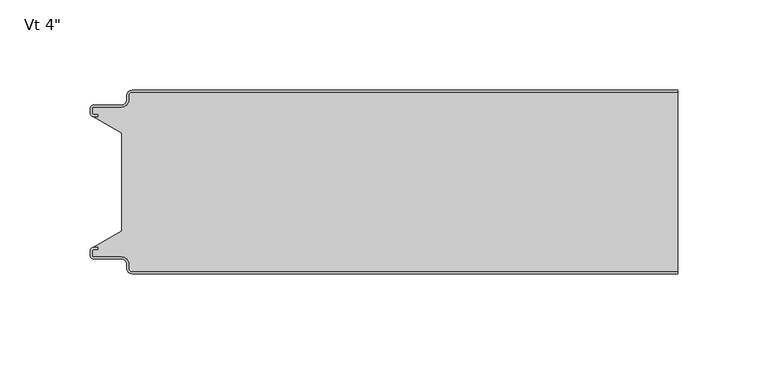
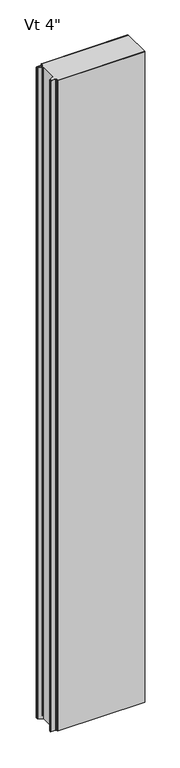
"""IFC4 building model written with IfcOpenShell, lengths in millimetres: plate geometry."""

from ifc_helpers import new_model, si_unit, frame, origin, place, context, project, spatial, polyline, circle_curve, source, transform, mapped, element, save
from ifc_brep_helpers import plane_surface, cylinder_surface, revolved_surface, advanced_brep


def plate_914df59f(model_context):
    return source(origin(), model_context, "Body", "AdvancedBrep", [
        advanced_brep(
        [(-149.8873936, -2.9776189, 2400.0), (-147.9104835, -1.0007088, 2400.0), (153.7374998, -1.0007088, 2400.0), (153.7374998, 0.0, 2400.0), (-147.9102787, 0.0, 2400.0), (-150.8875472, -2.977286, 2400.0), (-150.8875472, -5.2691698, 2400.0), (-153.8648158, -8.2464384, 2400.0), (-169.4612418, -8.2464384, 2400.0), (-171.0491183, -9.8343149, 2400.0), (-171.0491183, -12.9058636, 2400.0), (-169.4612418, -14.4937401, 2400.0), (-167.1062063, -14.4937401, 2400.0), (-167.1062063, -13.4937365, 2400.0), (-169.4612373, -13.4937365, 2400.0), (-170.0491084, -12.9058654, 2400.0), (-170.0491084, -9.834334, 2400.0), (-169.4612512, -9.2464768, 2400.0), (-153.864739, -9.2464768, 2400.0), (-149.8873936, -5.2691315, 2400.0), (-149.8873936, -2.9776189, 0.0), (-149.8873936, -5.2691315, 0.0), (-153.864739, -9.2464768, 0.0), (-169.4612512, -9.2464768, 0.0), (-170.0491084, -9.834334, 0.0), (-170.0491084, -12.9058654, 0.0), (-169.4612373, -13.4937365, 0.0), (-167.1062063, -13.4937365, 0.0), (-167.1062063, -14.4937401, 0.0), (-169.4612418, -14.4937401, 0.0), (-171.0491183, -12.9058636, 0.0), (-171.0491183, -9.8343149, 0.0), (-169.4612418, -8.2464384, 0.0), (-153.8648158, -8.2464384, 0.0), (-150.8875472, -5.2691698, 0.0), (-150.8875472, -2.977286, 0.0), (-147.9102787, -1.75e-05, 0.0), (153.7374998, 0.0, 0.0), (153.7374998, -1.0007088, 0.0), (-147.9104835, -1.0007088, 0.0)],
        [
            (0, 1, circle_curve(frame((-147.9104835, -2.9776189, 2400.0), z_axis=(0.0, 0.0, -1.0), x_axis=(0.0, 1.0, 0.0)), 1.9769101)),
            (1, 2),
            (2, 3),
            (3, 4),
            (4, 5, circle_curve(frame((-147.9102787, -2.977286, 2400.0), z_axis=(0.0, 0.0, 1.0), x_axis=(0.0, 1.0, 0.0)), 2.9772685)),
            (5, 6),
            (6, 7, circle_curve(frame((-153.8648158, -5.2691698, 2400.0), z_axis=(0.0, 0.0, -1.0), x_axis=(0.0, 1.0, 0.0)), 2.9772685)),
            (7, 8),
            (8, 9, circle_curve(frame((-169.4612418, -9.8343149, 2400.0), z_axis=(0.0, 0.0, 1.0), x_axis=(0.0, 1.0, 0.0)), 1.5878765)),
            (9, 10),
            (10, 11, circle_curve(frame((-169.4612418, -12.9058636, 2400.0), z_axis=(0.0, 0.0, 1.0), x_axis=(0.0, 1.0, 0.0)), 1.5878765)),
            (11, 12),
            (12, 13),
            (13, 14),
            (14, 15, circle_curve(frame((-169.4612373, -12.9058654, 2400.0), z_axis=(0.0, 0.0, -1.0), x_axis=(0.0, 1.0, 0.0)), 0.5878711)),
            (15, 16),
            (16, 17, circle_curve(frame((-169.4612512, -9.834334, 2400.0), z_axis=(0.0, 0.0, -1.0), x_axis=(0.0, 1.0, 0.0)), 0.5878572)),
            (17, 18),
            (18, 19, circle_curve(frame((-153.864739, -5.2691315, 2400.0), z_axis=(0.0, 0.0, 1.0), x_axis=(0.0, 1.0, 0.0)), 3.9773454)),
            (19, 0),
            (20, 21),
            (21, 22, circle_curve(frame((-153.864739, -5.2691315, 0.0), z_axis=(0.0, 0.0, -1.0), x_axis=(0.0, 1.0, 0.0)), 3.9773454)),
            (22, 23),
            (23, 24, circle_curve(frame((-169.4612512, -9.834334, 0.0), z_axis=(0.0, 0.0, 1.0), x_axis=(0.0, 1.0, 0.0)), 0.5878572)),
            (24, 25),
            (25, 26, circle_curve(frame((-169.4612373, -12.9058654, 0.0), z_axis=(0.0, 0.0, 1.0), x_axis=(0.0, 1.0, 0.0)), 0.5878711)),
            (26, 27),
            (27, 28),
            (28, 29),
            (29, 30, circle_curve(frame((-169.4612418, -12.9058636, 0.0), z_axis=(0.0, 0.0, -1.0), x_axis=(0.0, 1.0, 0.0)), 1.5878765)),
            (30, 31),
            (31, 32, circle_curve(frame((-169.4612418, -9.8343149, 0.0), z_axis=(0.0, 0.0, -1.0), x_axis=(0.0, 1.0, 0.0)), 1.5878765)),
            (32, 33),
            (33, 34, circle_curve(frame((-153.8648158, -5.2691698, 0.0), z_axis=(0.0, 0.0, 1.0), x_axis=(0.0, 1.0, 0.0)), 2.9772685)),
            (34, 35),
            (35, 36, circle_curve(frame((-147.9102787, -2.977286, 0.0), z_axis=(0.0, 0.0, -1.0), x_axis=(0.0, 1.0, 0.0)), 2.9772685)),
            (36, 37),
            (37, 38),
            (38, 39),
            (39, 20, circle_curve(frame((-147.9104835, -2.9776189, 0.0), z_axis=(0.0, 0.0, 1.0), x_axis=(0.0, 1.0, 0.0)), 1.9769101)),
            (2, 38),
            (37, 3),
            (19, 21),
            (20, 0),
            (18, 22),
            (17, 23),
            (16, 24),
            (15, 25),
            (14, 26),
            (13, 27),
            (12, 28),
            (11, 29),
            (10, 30),
            (9, 31),
            (8, 32),
            (7, 33),
            (6, 34),
            (5, 35),
            (4, 36),
            (1, 39),
        ],
        [
            plane_surface(frame((422.5250002, 0.0, 2400.0), z_axis=(0.0, 0.0, 1.0), x_axis=(0.0, 1.0, 0.0))),
            plane_surface(frame((422.5250002, 0.0, 0.0), z_axis=(0.0, 0.0, -1.0), x_axis=(0.0, 1.0, 0.0))),
            plane_surface(frame((153.7374998, -111.6, 2400.0), z_axis=(1.0, 0.0, 0.0), x_axis=(0.0, 0.0, -1.0))),
            plane_surface(frame((-149.8873936, -2.9776189, 2400.0), z_axis=(1.0, 0.0, 0.0), x_axis=(0.0, 0.0, -1.0))),
            cylinder_surface(frame((-153.864739, -5.2691315, 2400.0), z_axis=(0.0, 0.0, 1.0), x_axis=(0.0, 1.0, 0.0)), 3.9773454),
            plane_surface(frame((-153.864739, -9.2464768, 2400.0), z_axis=(0.0, -1.0, 0.0), x_axis=(0.0, 0.0, -1.0))),
            revolved_surface(polyline([(-169.4612512, -9.2464768, 0.0), (-169.4612512, -9.2464768, 2400.0)]), (-169.4612512, -9.834334, 2400.0), (0.0, 0.0, -1.0)),
            plane_surface(frame((-170.0491084, -9.834334, 2400.0), z_axis=(1.0, 0.0, 0.0), x_axis=(0.0, 0.0, -1.0))),
            revolved_surface(polyline([(-169.4612373, -12.3179943, 0.0), (-169.4612373, -12.3179943, 2400.0)]), (-169.4612373, -12.9058654, 2400.0), (0.0, 0.0, -1.0)),
            plane_surface(frame((-169.4612373, -13.4937365, 2400.0), z_axis=(0.0, 1.0, 0.0), x_axis=(0.0, 0.0, -1.0))),
            plane_surface(frame((-167.1062063, -13.4937365, 2400.0), z_axis=(1.0, 0.0, 0.0), x_axis=(0.0, 0.0, -1.0))),
            plane_surface(frame((-167.1062063, -14.4937401, 2400.0), z_axis=(0.0, -1.0, 0.0), x_axis=(0.0, 0.0, -1.0))),
            cylinder_surface(frame((-169.4612418, -12.9058636, 2400.0), z_axis=(0.0, 0.0, 1.0), x_axis=(0.0, 1.0, 0.0)), 1.5878765),
            plane_surface(frame((-171.0491183, -12.9058636, 2400.0), z_axis=(-1.0, 0.0, 0.0), x_axis=(0.0, 0.0, -1.0))),
            cylinder_surface(frame((-169.4612418, -9.8343149, 2400.0), z_axis=(0.0, 0.0, 1.0), x_axis=(0.0, 1.0, 0.0)), 1.5878765),
            plane_surface(frame((-169.4612418, -8.2464384, 2400.0), z_axis=(0.0, 1.0, 0.0), x_axis=(0.0, 0.0, -1.0))),
            revolved_surface(polyline([(-153.8648158, -2.2919013, 0.0), (-153.8648158, -2.2919013, 2400.0)]), (-153.8648158, -5.2691698, 2400.0), (0.0, 0.0, -1.0)),
            plane_surface(frame((-150.8875472, -5.2691698, 2400.0), z_axis=(-1.0, 0.0, 0.0), x_axis=(0.0, 0.0, -1.0))),
            cylinder_surface(frame((-147.9102787, -2.977286, 2400.0), z_axis=(0.0, 0.0, 1.0), x_axis=(0.0, 1.0, 0.0)), 2.9772685),
            plane_surface(frame((-147.9102787, 0.0, 2400.0), z_axis=(0.0, 1.0, 0.0), x_axis=(0.0, 0.0, -1.0))),
            plane_surface(frame((997.0753372, -1.0007088, 2400.0), z_axis=(0.0, -1.0, 0.0), x_axis=(0.0, 0.0, -1.0))),
            revolved_surface(polyline([(-147.9104835, -1.0007088, 0.0), (-147.9104835, -1.0007088, 2400.0)]), (-147.9104835, -2.9776189, 2400.0), (0.0, 0.0, -1.0)),
        ],
        [
            (0, [[1, 2, 3, 4, 5, 6, 7, 8, 9, 10, 11, 12, 13, 14, 15, 16, 17, 18, 19, 20]]),
            (1, [[21, 22, 23, 24, 25, 26, 27, 28, 29, 30, 31, 32, 33, 34, 35, 36, 37, 38, 39, 40]]),
            (2, [[41, -38, 42, -3]]),
            (3, [[43, -21, 44, -20]]),
            (4, [[45, -22, -43, -19]]),
            (5, [[46, -23, -45, -18]]),
            (6, [[47, -24, -46, -17]]),
            (7, [[48, -25, -47, -16]]),
            (8, [[49, -26, -48, -15]]),
            (9, [[50, -27, -49, -14]]),
            (10, [[51, -28, -50, -13]]),
            (11, [[52, -29, -51, -12]]),
            (12, [[53, -30, -52, -11]]),
            (13, [[54, -31, -53, -10]]),
            (14, [[55, -32, -54, -9]]),
            (15, [[56, -33, -55, -8]]),
            (16, [[57, -34, -56, -7]]),
            (17, [[58, -35, -57, -6]]),
            (18, [[59, -36, -58, -5]]),
            (19, [[-4, -42, -37, -59]]),
            (20, [[-39, -41, -2, 60]]),
            (21, [[-44, -40, -60, -1]]),
        ],
    ),
        advanced_brep(
        [(-149.8873936, -98.6223811, 2400.0), (-149.8873936, -96.3308685, 2400.0), (-153.864739, -92.3535232, 2400.0), (-169.4612512, -92.3535232, 2400.0), (-170.0491084, -91.765666, 2400.0), (-170.0491084, -88.6941346, 2400.0), (-169.4612373, -88.1062635, 2400.0), (-167.1062063, -88.1062635, 2400.0), (-167.1062063, -87.1062599, 2400.0), (-169.4612418, -87.1062599, 2400.0), (-171.0491183, -88.6941364, 2400.0), (-171.0491183, -91.7656851, 2400.0), (-169.4612418, -93.3535616, 2400.0), (-153.8648158, -93.3535616, 2400.0), (-150.8875472, -96.3308302, 2400.0), (-150.8875472, -98.622714, 2400.0), (-147.9102787, -101.5999825, 2400.0), (153.7374998, -101.6, 2400.0), (153.7374998, -100.5992912, 2400.0), (-147.9104835, -100.5992912, 2400.0), (-149.8873936, -98.6223811, 0.0), (-147.9104835, -100.5992912, 0.0), (153.7374998, -100.5992912, 0.0), (153.7374998, -101.6, 0.0), (-147.9102787, -101.6, 0.0), (-150.8875472, -98.622714, 0.0), (-150.8875472, -96.3308302, 0.0), (-153.8648158, -93.3535616, 0.0), (-169.4612418, -93.3535616, 0.0), (-171.0491183, -91.7656851, 0.0), (-171.0491183, -88.6941364, 0.0), (-169.4612418, -87.1062599, 0.0), (-167.1062063, -87.1062599, 0.0), (-167.1062063, -88.1062635, 0.0), (-169.4612373, -88.1062635, 0.0), (-170.0491084, -88.6941346, 0.0), (-170.0491084, -91.765666, 0.0), (-169.4612512, -92.3535232, 0.0), (-153.864739, -92.3535232, 0.0), (-149.8873936, -96.3308685, 0.0)],
        [
            (0, 1),
            (1, 2, circle_curve(frame((-153.864739, -96.3308685, 2400.0), z_axis=(0.0, 0.0, 1.0), x_axis=(-1.0, 0.0, 0.0)), 3.9773454)),
            (2, 3),
            (3, 4, circle_curve(frame((-169.4612512, -91.765666, 2400.0), z_axis=(0.0, 0.0, -1.0), x_axis=(-1.0, 0.0, 0.0)), 0.5878572)),
            (4, 5),
            (5, 6, circle_curve(frame((-169.4612373, -88.6941346, 2400.0), z_axis=(0.0, 0.0, -1.0), x_axis=(-1.0, 0.0, 0.0)), 0.5878711)),
            (6, 7),
            (7, 8),
            (8, 9),
            (9, 10, circle_curve(frame((-169.4612418, -88.6941364, 2400.0), z_axis=(0.0, 0.0, 1.0), x_axis=(-1.0, 0.0, 0.0)), 1.5878765)),
            (10, 11),
            (11, 12, circle_curve(frame((-169.4612418, -91.7656851, 2400.0), z_axis=(0.0, 0.0, 1.0), x_axis=(-1.0, 0.0, 0.0)), 1.5878765)),
            (12, 13),
            (13, 14, circle_curve(frame((-153.8648158, -96.3308302, 2400.0), z_axis=(0.0, 0.0, -1.0), x_axis=(-1.0, 0.0, 0.0)), 2.9772685)),
            (14, 15),
            (15, 16, circle_curve(frame((-147.9102787, -98.622714, 2400.0), z_axis=(0.0, 0.0, 1.0), x_axis=(-1.0, 0.0, 0.0)), 2.9772685)),
            (16, 17),
            (17, 18),
            (18, 19),
            (19, 0, circle_curve(frame((-147.9104835, -98.6223811, 2400.0), z_axis=(0.0, 0.0, -1.0), x_axis=(-1.0, 0.0, 0.0)), 1.9769101)),
            (20, 21, circle_curve(frame((-147.9104835, -98.6223811, 0.0), z_axis=(0.0, 0.0, 1.0), x_axis=(-1.0, 0.0, 0.0)), 1.9769101)),
            (21, 22),
            (22, 23),
            (23, 24),
            (24, 25, circle_curve(frame((-147.9102787, -98.622714, 0.0), z_axis=(0.0, 0.0, -1.0), x_axis=(-1.0, 0.0, 0.0)), 2.9772685)),
            (25, 26),
            (26, 27, circle_curve(frame((-153.8648158, -96.3308302, 0.0), z_axis=(0.0, 0.0, 1.0), x_axis=(-1.0, 0.0, 0.0)), 2.9772685)),
            (27, 28),
            (28, 29, circle_curve(frame((-169.4612418, -91.7656851, 0.0), z_axis=(0.0, 0.0, -1.0), x_axis=(-1.0, 0.0, 0.0)), 1.5878765)),
            (29, 30),
            (30, 31, circle_curve(frame((-169.4612418, -88.6941364, 0.0), z_axis=(0.0, 0.0, -1.0), x_axis=(-1.0, 0.0, 0.0)), 1.5878765)),
            (31, 32),
            (32, 33),
            (33, 34),
            (34, 35, circle_curve(frame((-169.4612373, -88.6941346, 0.0), z_axis=(0.0, 0.0, 1.0), x_axis=(-1.0, 0.0, 0.0)), 0.5878711)),
            (35, 36),
            (36, 37, circle_curve(frame((-169.4612512, -91.765666, 0.0), z_axis=(0.0, 0.0, 1.0), x_axis=(-1.0, 0.0, 0.0)), 0.5878572)),
            (37, 38),
            (38, 39, circle_curve(frame((-153.864739, -96.3308685, 0.0), z_axis=(0.0, 0.0, -1.0), x_axis=(-1.0, 0.0, 0.0)), 3.9773454)),
            (39, 20),
            (17, 23),
            (22, 18),
            (16, 24),
            (21, 19),
            (20, 0),
            (39, 1),
            (38, 2),
            (37, 3),
            (4, 36),
            (35, 5),
            (34, 6),
            (33, 7),
            (32, 8),
            (31, 9),
            (30, 10),
            (29, 11),
            (28, 12),
            (27, 13),
            (26, 14),
            (25, 15),
        ],
        [
            plane_surface(frame((422.5250002, -101.6, 2400.0), z_axis=(0.0, 0.0, 1.0), x_axis=(0.0, -1.0, 0.0))),
            plane_surface(frame((422.5250002, -101.6, 0.0), z_axis=(0.0, 0.0, -1.0), x_axis=(0.0, -1.0, 0.0))),
            plane_surface(frame((153.7374998, -111.6, 2400.0), z_axis=(1.0, 0.0, 0.0), x_axis=(0.0, 0.0, -1.0))),
            plane_surface(frame((997.0725653, -101.6, 2400.0), z_axis=(0.0, -1.0, 0.0), x_axis=(0.0, 0.0, -1.0))),
            plane_surface(frame((-147.9104835, -100.5992912, 2400.0), z_axis=(0.0, 1.0, 0.0), x_axis=(0.0, 0.0, -1.0))),
            revolved_surface(polyline([(-149.8873936, -98.6223811, 0.0), (-149.8873936, -98.6223811, 2400.0)]), (-147.9104835, -98.6223811, 2400.0), (0.0, 0.0, -1.0)),
            plane_surface(frame((-149.8873936, -96.3308685, 2400.0), z_axis=(1.0, 0.0, 0.0), x_axis=(0.0, 0.0, -1.0))),
            cylinder_surface(frame((-153.864739, -96.3308685, 2400.0), z_axis=(0.0, 0.0, 1.0), x_axis=(-1.0, 0.0, 0.0)), 3.9773454),
            plane_surface(frame((-169.4612512, -92.3535232, 2400.0), z_axis=(0.0, 1.0, 0.0), x_axis=(0.0, 0.0, -1.0))),
            plane_surface(frame((-170.0491084, -88.6941346, 2400.0), z_axis=(1.0, 0.0, 0.0), x_axis=(0.0, 0.0, -1.0))),
            revolved_surface(polyline([(-170.0491084, -88.6941346, 0.0), (-170.0491084, -88.6941346, 2400.0)]), (-169.4612373, -88.6941346, 2400.0), (0.0, 0.0, -1.0)),
            plane_surface(frame((-167.1062063, -88.1062635, 2400.0), z_axis=(0.0, -1.0, 0.0), x_axis=(0.0, 0.0, -1.0))),
            plane_surface(frame((-167.1062063, -87.1062599, 2400.0), z_axis=(1.0, 0.0, 0.0), x_axis=(0.0, 0.0, -1.0))),
            plane_surface(frame((-169.4612418, -87.1062599, 2400.0), z_axis=(0.0, 1.0, 0.0), x_axis=(0.0, 0.0, -1.0))),
            cylinder_surface(frame((-169.4612418, -88.6941364, 2400.0), z_axis=(0.0, 0.0, 1.0), x_axis=(-1.0, 0.0, 0.0)), 1.5878765),
            plane_surface(frame((-171.0491183, -91.7656851, 2400.0), z_axis=(-1.0, 0.0, 0.0), x_axis=(0.0, 0.0, -1.0))),
            cylinder_surface(frame((-169.4612418, -91.7656851, 2400.0), z_axis=(0.0, 0.0, 1.0), x_axis=(-1.0, 0.0, 0.0)), 1.5878765),
            plane_surface(frame((-153.8648158, -93.3535616, 2400.0), z_axis=(0.0, -1.0, 0.0), x_axis=(0.0, 0.0, -1.0))),
            revolved_surface(polyline([(-156.8420843, -96.3308302, 0.0), (-156.8420843, -96.3308302, 2400.0)]), (-153.8648158, -96.3308302, 2400.0), (0.0, 0.0, -1.0)),
            plane_surface(frame((-150.8875472, -98.622714, 2400.0), z_axis=(-1.0, 0.0, 0.0), x_axis=(0.0, 0.0, -1.0))),
            cylinder_surface(frame((-147.9102787, -98.622714, 2400.0), z_axis=(0.0, 0.0, 1.0), x_axis=(-1.0, 0.0, 0.0)), 2.9772685),
            revolved_surface(polyline([(-170.0491084, -91.765666, 0.0), (-170.0491084, -91.765666, 2400.0)]), (-169.4612512, -91.765666, 2400.0), (0.0, 0.0, -1.0)),
        ],
        [
            (0, [[1, 2, 3, 4, 5, 6, 7, 8, 9, 10, 11, 12, 13, 14, 15, 16, 17, 18, 19, 20]]),
            (1, [[21, 22, 23, 24, 25, 26, 27, 28, 29, 30, 31, 32, 33, 34, 35, 36, 37, 38, 39, 40]]),
            (2, [[41, -23, 42, -18]]),
            (3, [[-24, -41, -17, 43]]),
            (4, [[-19, -42, -22, 44]]),
            (5, [[-44, -21, 45, -20]]),
            (6, [[-45, -40, 46, -1]]),
            (7, [[-46, -39, 47, -2]]),
            (8, [[-47, -38, 48, -3]]),
            (9, [[49, -36, 50, -5]]),
            (10, [[-50, -35, 51, -6]]),
            (11, [[-51, -34, 52, -7]]),
            (12, [[-52, -33, 53, -8]]),
            (13, [[-53, -32, 54, -9]]),
            (14, [[-54, -31, 55, -10]]),
            (15, [[-55, -30, 56, -11]]),
            (16, [[-56, -29, 57, -12]]),
            (17, [[-57, -28, 58, -13]]),
            (18, [[-58, -27, 59, -14]]),
            (19, [[-59, -26, 60, -15]]),
            (20, [[-60, -25, -43, -16]]),
            (21, [[-48, -37, -49, -4]]),
        ],
    ),
        advanced_brep(
        [(-149.88755, -98.6227194, 2400.0), (-147.910276, -100.5999935, 2400.0), (153.7374998, -100.6, 2400.0), (153.7374998, -1.0, 2400.0), (-147.910276, -1.0, 2400.0), (-149.88755, -2.9772806, 2400.0), (-149.88755, -5.2691705, 2400.0), (-153.8648171, -9.2464377, 2400.0), (-169.4612416, -9.2464377, 2400.0), (-170.0491185, -9.8343146, 2400.0), (-170.0491185, -12.9058635, 2400.0), (-169.4612418, -13.4937402, 2400.0), (-167.1062063, -13.4937402, 2400.0), (-167.1062063, -14.4937402, 2400.0), (-169.395785, -14.4937402, 2400.0), (-153.7374998, -23.7509135, 2400.0), (-153.7374998, -77.8490865, 2400.0), (-169.395785, -87.1062598, 2400.0), (-167.1062063, -87.1062598, 2400.0), (-167.1062063, -88.1062598, 2400.0), (-169.4612418, -88.1062598, 2400.0), (-170.0491185, -88.6941365, 2400.0), (-170.0491185, -91.7656854, 2400.0), (-169.4612416, -92.3535623, 2400.0), (-153.8648171, -92.3535623, 2400.0), (-149.88755, -96.3308295, 2400.0), (-149.88755, -98.6227194, 0.0), (-149.88755, -96.3308295, 0.0), (-153.8648171, -92.3535623, 0.0), (-169.4612416, -92.3535623, 0.0), (-170.0491185, -91.7656854, 0.0), (-170.0491185, -88.6941365, 0.0), (-169.4612418, -88.1062598, 0.0), (-167.1062063, -88.1062598, 0.0), (-167.1062063, -87.1062598, 0.0), (-169.395785, -87.1062598, 0.0), (-153.7374998, -77.8490865, 0.0), (-153.7374998, -23.7509179, 0.0), (-169.395785, -14.4937402, 0.0), (-167.1062063, -14.4937402, 0.0), (-167.1062063, -13.4937402, 0.0), (-169.4612418, -13.4937402, 0.0), (-170.0491185, -12.9058635, 0.0), (-170.0491185, -9.8343146, 0.0), (-169.4612416, -9.2464377, 0.0), (-153.8648171, -9.2464377, 0.0), (-149.88755, -5.2691705, 0.0), (-149.88755, -2.9772806, 0.0), (-147.910276, -1.0000065, 0.0), (153.7374998, -1.0, 0.0), (153.7374998, -100.6, 0.0), (-147.910276, -100.6, 0.0)],
        [
            (0, 1, circle_curve(frame((-147.910276, -98.6227194, 2400.0), z_axis=(0.0, 0.0, 1.0), x_axis=(-1.0, 0.0, 0.0)), 1.977274)),
            (1, 2),
            (2, 3),
            (3, 4),
            (4, 5, circle_curve(frame((-147.910276, -2.9772806, 2400.0), z_axis=(0.0, 0.0, 1.0), x_axis=(0.0, 1.0, 0.0)), 1.977274)),
            (5, 6),
            (6, 7, circle_curve(frame((-153.8648171, -5.2691705, 2400.0), z_axis=(0.0, 0.0, -1.0), x_axis=(0.0, 1.0, 0.0)), 3.9772671)),
            (7, 8),
            (8, 9, circle_curve(frame((-169.4612416, -9.8343146, 2400.0), z_axis=(0.0, 0.0, 1.0), x_axis=(0.0, 1.0, 0.0)), 0.5878769)),
            (9, 10),
            (10, 11, circle_curve(frame((-169.4612418, -12.9058635, 2400.0), z_axis=(0.0, 0.0, 1.0), x_axis=(0.0, 1.0, 0.0)), 0.5878766)),
            (11, 12),
            (12, 13),
            (13, 14),
            (14, 15),
            (15, 16),
            (16, 17),
            (17, 18),
            (18, 19),
            (19, 20),
            (20, 21, circle_curve(frame((-169.4612418, -88.6941365, 2400.0), z_axis=(0.0, 0.0, 1.0), x_axis=(-1.0, 0.0, 0.0)), 0.5878766)),
            (21, 22),
            (22, 23, circle_curve(frame((-169.4612416, -91.7656854, 2400.0), z_axis=(0.0, 0.0, 1.0), x_axis=(-1.0, 0.0, 0.0)), 0.5878769)),
            (23, 24),
            (24, 25, circle_curve(frame((-153.8648171, -96.3308295, 2400.0), z_axis=(0.0, 0.0, -1.0), x_axis=(-1.0, 0.0, 0.0)), 3.9772671)),
            (25, 0),
            (26, 27),
            (27, 28, circle_curve(frame((-153.8648171, -96.3308295, 0.0), z_axis=(0.0, 0.0, 1.0), x_axis=(-1.0, 0.0, 0.0)), 3.9772671)),
            (28, 29),
            (29, 30, circle_curve(frame((-169.4612416, -91.7656854, 0.0), z_axis=(0.0, 0.0, -1.0), x_axis=(-1.0, 0.0, 0.0)), 0.5878769)),
            (30, 31),
            (31, 32, circle_curve(frame((-169.4612418, -88.6941365, 0.0), z_axis=(0.0, 0.0, -1.0), x_axis=(-1.0, 0.0, 0.0)), 0.5878766)),
            (32, 33),
            (33, 34),
            (34, 35),
            (35, 36),
            (36, 37),
            (37, 38),
            (38, 39),
            (39, 40),
            (40, 41),
            (41, 42, circle_curve(frame((-169.4612418, -12.9058635, 0.0), z_axis=(0.0, 0.0, -1.0), x_axis=(0.0, 1.0, 0.0)), 0.5878766)),
            (42, 43),
            (43, 44, circle_curve(frame((-169.4612416, -9.8343146, 0.0), z_axis=(0.0, 0.0, -1.0), x_axis=(0.0, 1.0, 0.0)), 0.5878769)),
            (44, 45),
            (45, 46, circle_curve(frame((-153.8648171, -5.2691705, 0.0), z_axis=(0.0, 0.0, 1.0), x_axis=(0.0, 1.0, 0.0)), 3.9772671)),
            (46, 47),
            (47, 48, circle_curve(frame((-147.910276, -2.9772806, 0.0), z_axis=(0.0, 0.0, -1.0), x_axis=(0.0, 1.0, 0.0)), 1.977274)),
            (48, 49),
            (49, 50),
            (50, 51),
            (51, 26, circle_curve(frame((-147.910276, -98.6227194, 0.0), z_axis=(0.0, 0.0, -1.0), x_axis=(-1.0, 0.0, 0.0)), 1.977274)),
            (15, 37),
            (36, 16),
            (2, 50),
            (49, 3),
            (25, 27),
            (26, 0),
            (24, 28),
            (23, 29),
            (22, 30),
            (21, 31),
            (20, 32),
            (19, 33),
            (18, 34),
            (17, 35),
            (1, 51),
            (4, 48),
            (47, 5),
            (14, 38),
            (13, 39),
            (12, 40),
            (11, 41),
            (10, 42),
            (9, 43),
            (8, 44),
            (7, 45),
            (6, 46),
        ],
        [
            plane_surface(frame((422.5250002, -100.6, 2400.0), z_axis=(0.0, 0.0, 1.0), x_axis=(0.0, -1.0, 0.0))),
            plane_surface(frame((422.5250002, -100.6, 0.0), z_axis=(0.0, 0.0, -1.0), x_axis=(0.0, -1.0, 0.0))),
            plane_surface(frame((-153.7374998, -77.8490865, 2400.0), z_axis=(-1.0, 0.0, 0.0), x_axis=(0.0, 0.0, -1.0))),
            plane_surface(frame((153.7374998, -111.6, 2400.0), z_axis=(1.0, 0.0, 0.0), x_axis=(0.0, 0.0, -1.0))),
            plane_surface(frame((-149.88755, -98.6227194, 2400.0), z_axis=(-1.0, 0.0, 0.0), x_axis=(0.0, 0.0, -1.0))),
            revolved_surface(polyline([(-157.84208420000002, -96.3308295, 0.0), (-157.84208420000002, -96.3308295, 2400.0)]), (-153.8648171, -96.3308295, 2400.0), (0.0, 0.0, -1.0)),
            plane_surface(frame((-153.8648171, -92.3535623, 2400.0), z_axis=(0.0, -1.0, 0.0), x_axis=(0.0, 0.0, -1.0))),
            cylinder_surface(frame((-169.4612416, -91.7656854, 2400.0), z_axis=(0.0, 0.0, 1.0), x_axis=(-1.0, 0.0, 0.0)), 0.5878769),
            plane_surface(frame((-170.0491185, -91.7656854, 2400.0), z_axis=(-1.0, 0.0, 0.0), x_axis=(0.0, 0.0, -1.0))),
            cylinder_surface(frame((-169.4612418, -88.6941365, 2400.0), z_axis=(0.0, 0.0, 1.0), x_axis=(-1.0, 0.0, 0.0)), 0.5878766),
            plane_surface(frame((-169.4612418, -88.1062598, 2400.0), z_axis=(0.0, 1.0, 0.0), x_axis=(0.0, 0.0, -1.0))),
            plane_surface(frame((-167.1062063, -88.1062598, 2400.0), z_axis=(-1.0, 0.0, 0.0), x_axis=(0.0, 0.0, -1.0))),
            plane_surface(frame((-167.1062063, -87.1062598, 2400.0), z_axis=(0.0, -1.0, 0.0), x_axis=(0.0, 0.0, -1.0))),
            plane_surface(frame((-169.395785, -87.1062598, 2400.0), z_axis=(-0.5089147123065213, 0.860816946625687, 0.0), x_axis=(0.0, 0.0, -1.0))),
            plane_surface(frame((997.0725653, -100.6, 2400.0), z_axis=(0.0, -1.0, 0.0), x_axis=(0.0, 0.0, -1.0))),
            cylinder_surface(frame((-147.910276, -98.6227194, 2400.0), z_axis=(0.0, 0.0, 1.0), x_axis=(-1.0, 0.0, 0.0)), 1.977274),
            cylinder_surface(frame((-147.910276, -2.9772806, 2400.0), z_axis=(0.0, 0.0, 1.0), x_axis=(0.0, 1.0, 0.0)), 1.977274),
            plane_surface(frame((-147.910276, -1.0, 2400.0), z_axis=(0.0, 1.0, 0.0), x_axis=(0.0, 0.0, -1.0))),
            plane_surface(frame((-153.7374998, -23.7509135, 2400.0), z_axis=(-0.5089147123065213, -0.860816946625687, 0.0), x_axis=(0.0, 0.0, -1.0))),
            plane_surface(frame((-169.395785, -14.4937402, 2400.0), z_axis=(0.0, 1.0, 0.0), x_axis=(0.0, 0.0, -1.0))),
            plane_surface(frame((-167.1062063, -14.4937402, 2400.0), z_axis=(-1.0, 0.0, 0.0), x_axis=(0.0, 0.0, -1.0))),
            plane_surface(frame((-167.1062063, -13.4937402, 2400.0), z_axis=(0.0, -1.0, 0.0), x_axis=(0.0, 0.0, -1.0))),
            cylinder_surface(frame((-169.4612418, -12.9058635, 2400.0), z_axis=(0.0, 0.0, 1.0), x_axis=(0.0, 1.0, 0.0)), 0.5878766),
            plane_surface(frame((-170.0491185, -12.9058635, 2400.0), z_axis=(-1.0, 0.0, 0.0), x_axis=(0.0, 0.0, -1.0))),
            cylinder_surface(frame((-169.4612416, -9.8343146, 2400.0), z_axis=(0.0, 0.0, 1.0), x_axis=(0.0, 1.0, 0.0)), 0.5878769),
            plane_surface(frame((-169.4612416, -9.2464377, 2400.0), z_axis=(0.0, 1.0, 0.0), x_axis=(0.0, 0.0, -1.0))),
            revolved_surface(polyline([(-153.8648171, -1.2919034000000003, 0.0), (-153.8648171, -1.2919034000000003, 2400.0)]), (-153.8648171, -5.2691705, 2400.0), (0.0, 0.0, -1.0)),
            plane_surface(frame((-149.88755, -5.2691705, 2400.0), z_axis=(-1.0, 0.0, 0.0), x_axis=(0.0, 0.0, -1.0))),
        ],
        [
            (0, [[1, 2, 3, 4, 5, 6, 7, 8, 9, 10, 11, 12, 13, 14, 15, 16, 17, 18, 19, 20, 21, 22, 23, 24, 25, 26]]),
            (1, [[27, 28, 29, 30, 31, 32, 33, 34, 35, 36, 37, 38, 39, 40, 41, 42, 43, 44, 45, 46, 47, 48, 49, 50, 51, 52]]),
            (2, [[53, -37, 54, -16]]),
            (3, [[55, -50, 56, -3]]),
            (4, [[57, -27, 58, -26]]),
            (5, [[59, -28, -57, -25]]),
            (6, [[60, -29, -59, -24]]),
            (7, [[61, -30, -60, -23]]),
            (8, [[62, -31, -61, -22]]),
            (9, [[63, -32, -62, -21]]),
            (10, [[64, -33, -63, -20]]),
            (11, [[65, -34, -64, -19]]),
            (12, [[66, -35, -65, -18]]),
            (13, [[-54, -36, -66, -17]]),
            (14, [[-51, -55, -2, 67]]),
            (15, [[-58, -52, -67, -1]]),
            (16, [[68, -48, 69, -5]]),
            (17, [[-4, -56, -49, -68]]),
            (18, [[70, -38, -53, -15]]),
            (19, [[71, -39, -70, -14]]),
            (20, [[72, -40, -71, -13]]),
            (21, [[73, -41, -72, -12]]),
            (22, [[74, -42, -73, -11]]),
            (23, [[75, -43, -74, -10]]),
            (24, [[76, -44, -75, -9]]),
            (25, [[77, -45, -76, -8]]),
            (26, [[78, -46, -77, -7]]),
            (27, [[-69, -47, -78, -6]]),
        ],
    ),
    ])


if __name__ == "__main__":
    model = new_model("IFC4")
    model_context = context("Model", 3, world=origin())
    ifc_project = project(units=[si_unit("LENGTHUNIT", "METRE", prefix="MILLI")], contexts=[model_context])
    site = spatial("IfcSite", under=ifc_project)
    building = spatial("IfcBuilding", under=site)
    placement = place(None, origin())
    plate_shape = plate_914df59f(model_context)
    element("IfcPlate", 1, ObjectType="KIP-SLI-FLI-R19-CP-Vt-FL_FL : Vt 4\"", at=placement, inside=building, context=model_context, shape_type="MappedRepresentation", body=[
        mapped(plate_shape, transform((0.0, 0.0, 0.0), x_axis=(1.0, 0.0, 0.0), y_axis=(0.0, 1.0, 0.0), z_axis=(0.0, 0.0, 1.0))),
    ])
    save(model, "model.ifc")
